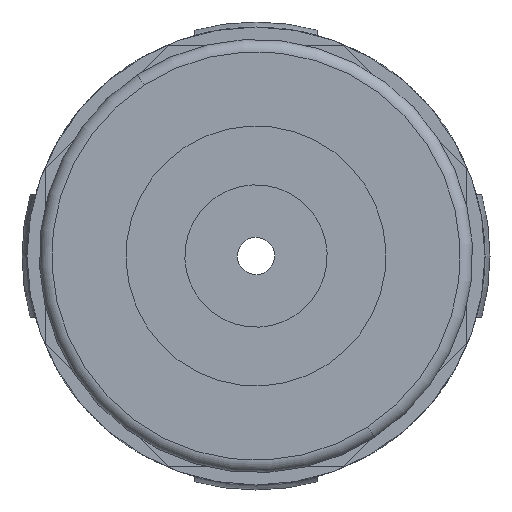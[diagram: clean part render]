
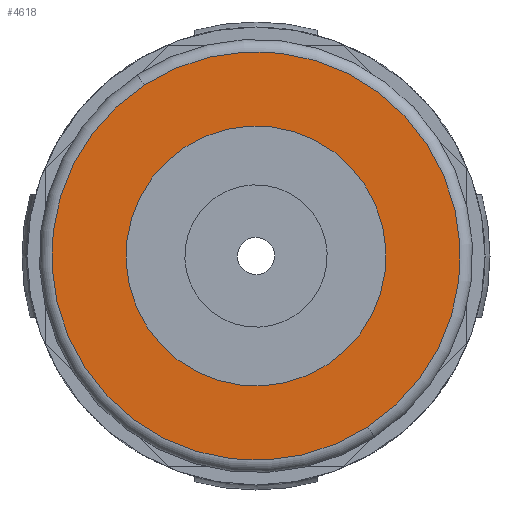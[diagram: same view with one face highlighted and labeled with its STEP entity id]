
A CAD part, front view. The second image highlights one B-rep face of the part: STEP entity #4618.
In plain terms, the highlighted planar face has unit normal (0, -1, 0) as drawn and (0, 1, 0) by its records, which use the part's own axes.
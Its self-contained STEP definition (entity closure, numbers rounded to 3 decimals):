
#455 = AXIS2_PLACEMENT_3D ( 'NONE', #9015, #1924, #10147 ) ;
#1017 = DIRECTION ( 'NONE',  ( 0., 1., 0. ) ) ;
#1622 = CARTESIAN_POINT ( 'NONE',  ( 0., 17., 16.5 ) ) ;
#1924 = DIRECTION ( 'NONE',  ( 0., 1., 0. ) ) ;
#1947 = FACE_OUTER_BOUND ( 'NONE', #14208, .T. ) ;
#2663 = DIRECTION ( 'NONE',  ( 0., -1., 0. ) ) ;
#2759 = CARTESIAN_POINT ( 'NONE',  ( 0., 17., 0. ) ) ;
#2823 = CARTESIAN_POINT ( 'NONE',  ( 17.5, 17., 0. ) ) ;
#3093 = AXIS2_PLACEMENT_3D ( 'NONE', #8194, #1017, #9315 ) ;
#3949 = DIRECTION ( 'NONE',  ( 0., 1., 0. ) ) ;
#4009 = DIRECTION ( 'NONE',  ( 0., 0., -1. ) ) ;
#4231 = VERTEX_POINT ( 'NONE', #14890 ) ;
#4618 = ADVANCED_FACE ( 'NONE', ( #1947, #14174 ), #10649, .F. ) ;
#5247 = AXIS2_PLACEMENT_3D ( 'NONE', #2823, #2663, #9694 ) ;
#5665 = CIRCLE ( 'NONE', #3093, 10.5 ) ;
#5839 = CIRCLE ( 'NONE', #12795, 16.5 ) ;
#6880 = EDGE_LOOP ( 'NONE', ( #7336, #13269 ) ) ;
#7063 = ORIENTED_EDGE ( 'NONE', *, *, #9114, .T. ) ;
#7336 = ORIENTED_EDGE ( 'NONE', *, *, #9441, .F. ) ;
#8194 = CARTESIAN_POINT ( 'NONE',  ( 0., 17., 0. ) ) ;
#8368 = EDGE_CURVE ( 'NONE', #4231, #13433, #9399, .T. ) ;
#8658 = CIRCLE ( 'NONE', #455, 16.5 ) ;
#9015 = CARTESIAN_POINT ( 'NONE',  ( 0., 17., 0. ) ) ;
#9114 = EDGE_CURVE ( 'NONE', #13965, #13089, #5839, .T. ) ;
#9315 = DIRECTION ( 'NONE',  ( 0., 0., 1. ) ) ;
#9399 = CIRCLE ( 'NONE', #11002, 10.5 ) ;
#9441 = EDGE_CURVE ( 'NONE', #13433, #4231, #5665, .T. ) ;
#9694 = DIRECTION ( 'NONE',  ( 0., 0., -1. ) ) ;
#10147 = DIRECTION ( 'NONE',  ( 0., 0., -1. ) ) ;
#10649 = PLANE ( 'NONE',  #5247 ) ;
#10817 = CARTESIAN_POINT ( 'NONE',  ( 0., 17., 0. ) ) ;
#10866 = DIRECTION ( 'NONE',  ( 0., 1., 0. ) ) ;
#11002 = AXIS2_PLACEMENT_3D ( 'NONE', #10817, #3949, #11905 ) ;
#11590 = CARTESIAN_POINT ( 'NONE',  ( 0., 17., 10.5 ) ) ;
#11905 = DIRECTION ( 'NONE',  ( 0., 0., 1. ) ) ;
#12164 = ORIENTED_EDGE ( 'NONE', *, *, #13346, .T. ) ;
#12795 = AXIS2_PLACEMENT_3D ( 'NONE', #2759, #10866, #4009 ) ;
#13089 = VERTEX_POINT ( 'NONE', #1622 ) ;
#13265 = CARTESIAN_POINT ( 'NONE',  ( 0., 17., -16.5 ) ) ;
#13269 = ORIENTED_EDGE ( 'NONE', *, *, #8368, .F. ) ;
#13346 = EDGE_CURVE ( 'NONE', #13089, #13965, #8658, .T. ) ;
#13433 = VERTEX_POINT ( 'NONE', #11590 ) ;
#13965 = VERTEX_POINT ( 'NONE', #13265 ) ;
#14174 = FACE_BOUND ( 'NONE', #6880, .T. ) ;
#14208 = EDGE_LOOP ( 'NONE', ( #7063, #12164 ) ) ;
#14890 = CARTESIAN_POINT ( 'NONE',  ( 0., 17., -10.5 ) ) ;
